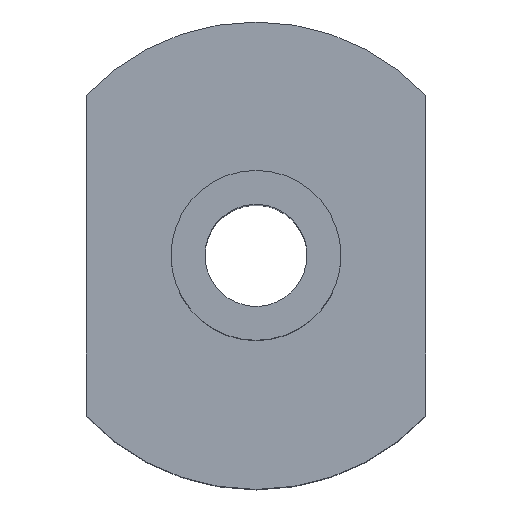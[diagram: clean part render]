
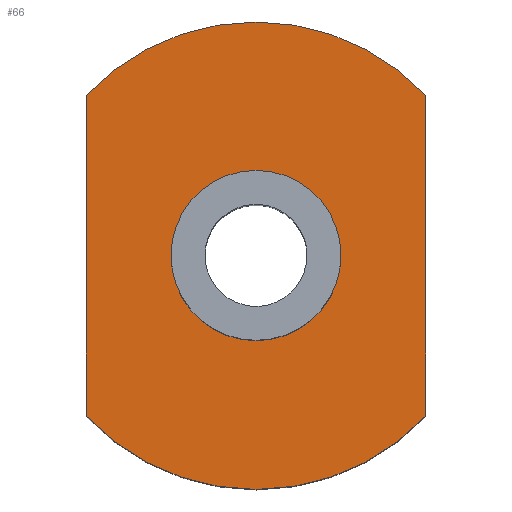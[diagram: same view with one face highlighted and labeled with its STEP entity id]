
A CAD part, top view. The second image highlights one B-rep face of the part: STEP entity #66.
In plain terms, the highlighted planar face has unit normal (0, 0, 1).
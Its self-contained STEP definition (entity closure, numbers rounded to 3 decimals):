
#66=ADVANCED_FACE('Pad.1',(#132,#133),#134,.T.);
#132=FACE_OUTER_BOUND('',#194,.T.);
#133=FACE_BOUND('',#195,.T.);
#134=PLANE('',#196);
#194=EDGE_LOOP('',(#314,#315,#316,#317));
#195=EDGE_LOOP('',(#318,#319));
#196=AXIS2_PLACEMENT_3D('',#320,#321,#322);
#314=ORIENTED_EDGE('',*,*,#392,.T.);
#315=ORIENTED_EDGE('',*,*,#395,.T.);
#316=ORIENTED_EDGE('',*,*,#398,.T.);
#317=ORIENTED_EDGE('',*,*,#400,.T.);
#318=ORIENTED_EDGE('',*,*,#402,.F.);
#319=ORIENTED_EDGE('',*,*,#403,.F.);
#320=CARTESIAN_POINT('',(0.0,0.0,-5.));
#321=DIRECTION('',(0.0,0.0,1.0));
#322=DIRECTION('',(1.0,0.0,0.0));
#392=EDGE_CURVE('',#464,#466,#468,.T.);
#395=EDGE_CURVE('',#466,#470,#472,.T.);
#398=EDGE_CURVE('',#470,#474,#476,.T.);
#400=EDGE_CURVE('',#474,#464,#478,.T.);
#402=EDGE_CURVE('',#480,#481,#482,.T.);
#403=EDGE_CURVE('',#481,#480,#483,.T.);
#464=VERTEX_POINT('',#567);
#466=VERTEX_POINT('',#570);
#468=LINE('',#573,#574);
#470=VERTEX_POINT('',#576);
#472=CIRCLE('',#579,5.5);
#474=VERTEX_POINT('',#581);
#476=LINE('',#584,#585);
#478=CIRCLE('',#587,5.5);
#480=VERTEX_POINT('',#589);
#481=VERTEX_POINT('',#590);
#482=CIRCLE('',#591,2.0);
#483=CIRCLE('',#592,2.0);
#567=CARTESIAN_POINT('',(-4.,3.775,-5.));
#570=CARTESIAN_POINT('',(-4.,-3.775,-5.));
#573=CARTESIAN_POINT('',(-4.,0.,-5.));
#574=VECTOR('',#655,1.0);
#576=CARTESIAN_POINT('',(4.,-3.775,-5.));
#579=AXIS2_PLACEMENT_3D('',#657,#658,#659);
#581=CARTESIAN_POINT('',(4.,3.775,-5.));
#584=CARTESIAN_POINT('',(4.,0.,-5.));
#585=VECTOR('',#661,1.0);
#587=AXIS2_PLACEMENT_3D('',#662,#663,#664);
#589=CARTESIAN_POINT('',(-2.,0.,-5.));
#590=CARTESIAN_POINT('',(2.,0.,-5.));
#591=AXIS2_PLACEMENT_3D('',#665,#666,#667);
#592=AXIS2_PLACEMENT_3D('',#668,#669,#670);
#655=DIRECTION('',(0.0,-1.0,0.0));
#657=CARTESIAN_POINT('',(0.,0.,-5.));
#658=DIRECTION('',(0.0,0.0,1.0));
#659=DIRECTION('',(1.0,0.0,0.0));
#661=DIRECTION('',(0.0,1.0,0.0));
#662=CARTESIAN_POINT('',(0.,0.,-5.));
#663=DIRECTION('',(0.0,0.0,1.0));
#664=DIRECTION('',(1.0,0.0,0.0));
#665=CARTESIAN_POINT('',(0.,0.,-5.));
#666=DIRECTION('',(0.0,0.0,1.0));
#667=DIRECTION('',(1.0,0.0,0.0));
#668=CARTESIAN_POINT('',(0.,0.,-5.));
#669=DIRECTION('',(0.0,0.0,1.0));
#670=DIRECTION('',(1.0,0.0,0.0));
